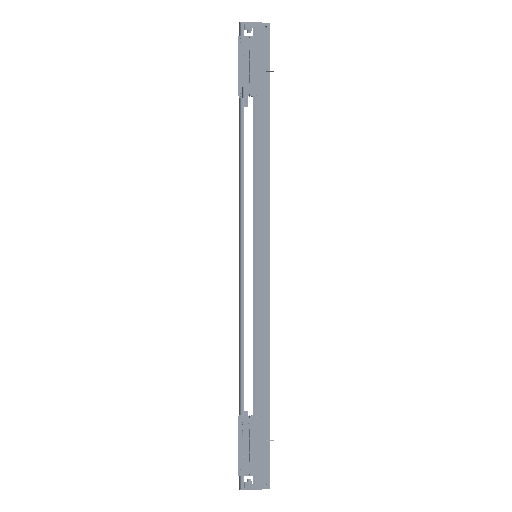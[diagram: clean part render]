
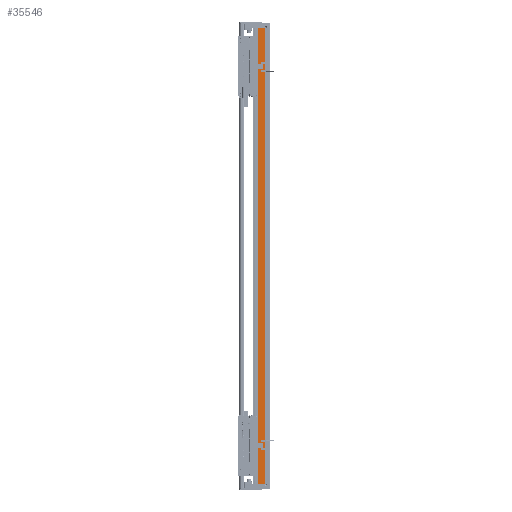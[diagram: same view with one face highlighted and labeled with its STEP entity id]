
A CAD part, left-side view. The second image highlights one B-rep face of the part: STEP entity #35546.
In plain terms, the highlighted planar face has unit normal (-1, 0, 0).
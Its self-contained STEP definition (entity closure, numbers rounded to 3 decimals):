
#686 = ORIENTED_EDGE ( 'NONE', *, *, #88319, .T. ) ;
#2506 = LINE ( 'NONE', #101675, #118474 ) ;
#7511 = CARTESIAN_POINT ( 'NONE',  ( -97.5, 14.45, -720. ) ) ;
#8551 = LINE ( 'NONE', #83122, #44364 ) ;
#10297 = CARTESIAN_POINT ( 'NONE',  ( -97.5, 14.45, 720. ) ) ;
#11695 = CARTESIAN_POINT ( 'NONE',  ( -97.5, 36.95, -720. ) ) ;
#15950 = CARTESIAN_POINT ( 'NONE',  ( -97.5, 36.95, 720. ) ) ;
#22244 = LINE ( 'NONE', #23830, #108704 ) ;
#22617 = VERTEX_POINT ( 'NONE', #7511 ) ;
#23830 = CARTESIAN_POINT ( 'NONE',  ( -97.5, 36.95, 720. ) ) ;
#35546 = ADVANCED_FACE ( 'NONE', ( #68916 ), #158197, .F. ) ;
#44364 = VECTOR ( 'NONE', #105284, 1000. ) ;
#45910 = CARTESIAN_POINT ( 'NONE',  ( -97.5, 36.95, 720. ) ) ;
#45993 = ORIENTED_EDGE ( 'NONE', *, *, #104780, .F. ) ;
#54177 = DIRECTION ( 'NONE',  ( 0., -1., 0. ) ) ;
#61268 = AXIS2_PLACEMENT_3D ( 'NONE', #45910, #105762, #143525 ) ;
#62382 = DIRECTION ( 'NONE',  ( 0., 0., -1. ) ) ;
#68916 = FACE_OUTER_BOUND ( 'NONE', #88874, .T. ) ;
#83122 = CARTESIAN_POINT ( 'NONE',  ( -97.5, 14.45, 720. ) ) ;
#87420 = VERTEX_POINT ( 'NONE', #10297 ) ;
#88319 = EDGE_CURVE ( 'NONE', #129560, #122476, #22244, .T. ) ;
#88874 = EDGE_LOOP ( 'NONE', ( #98913, #133271, #45993, #686 ) ) ;
#98913 = ORIENTED_EDGE ( 'NONE', *, *, #154863, .T. ) ;
#100176 = LINE ( 'NONE', #11695, #109870 ) ;
#101675 = CARTESIAN_POINT ( 'NONE',  ( -97.5, 36.95, 720. ) ) ;
#104224 = CARTESIAN_POINT ( 'NONE',  ( -97.5, 36.95, -720. ) ) ;
#104780 = EDGE_CURVE ( 'NONE', #129560, #87420, #2506, .T. ) ;
#105284 = DIRECTION ( 'NONE',  ( 0., 0., -1. ) ) ;
#105762 = DIRECTION ( 'NONE',  ( 1., 0., 0. ) ) ;
#108704 = VECTOR ( 'NONE', #62382, 1000. ) ;
#109870 = VECTOR ( 'NONE', #150214, 1000. ) ;
#118474 = VECTOR ( 'NONE', #54177, 1000. ) ;
#122476 = VERTEX_POINT ( 'NONE', #104224 ) ;
#129560 = VERTEX_POINT ( 'NONE', #15950 ) ;
#133271 = ORIENTED_EDGE ( 'NONE', *, *, #152655, .F. ) ;
#143525 = DIRECTION ( 'NONE',  ( 0., 1., 0. ) ) ;
#150214 = DIRECTION ( 'NONE',  ( 0., -1., 0. ) ) ;
#152655 = EDGE_CURVE ( 'NONE', #87420, #22617, #8551, .T. ) ;
#154863 = EDGE_CURVE ( 'NONE', #122476, #22617, #100176, .T. ) ;
#158197 = PLANE ( 'NONE',  #61268 ) ;
